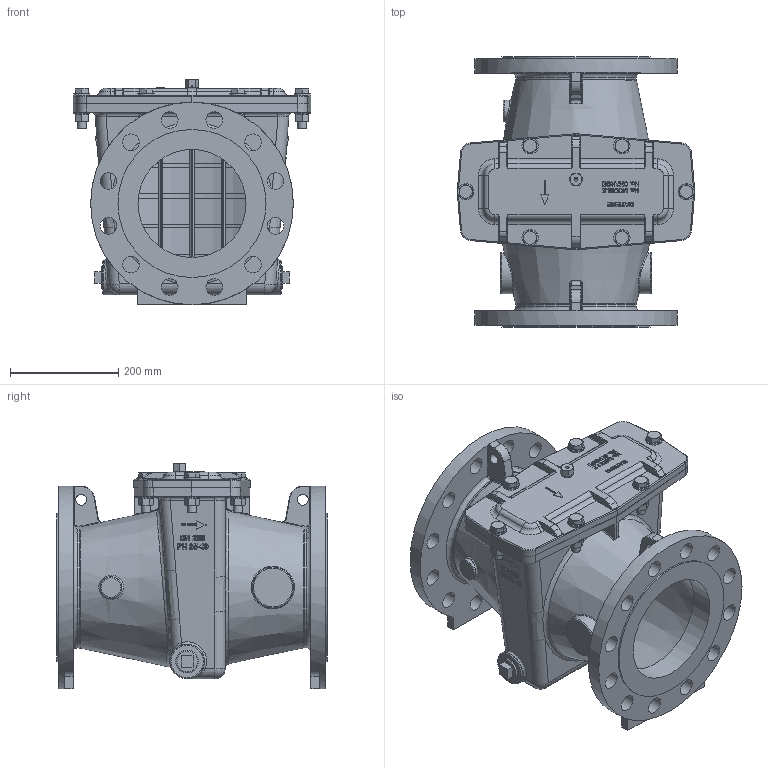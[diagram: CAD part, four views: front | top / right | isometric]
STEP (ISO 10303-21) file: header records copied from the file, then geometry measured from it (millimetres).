
FILE_DESCRIPTION(/* description */ (''),/* implementation_level */ '2;1');
FILE_NAME(/* name */ 'G:\Doc_Liberes\SymbolesCAD\Modeles_3D\FichierSTP\Aqua\Aqua90501\FAB200_40.stp',/* time_stamp */ '2017-11-27T09:29:16+01:00',/* author */ ('Cédric'),/* organization */ (''),/* preprocessor_version */ 'ST-DEVELOPER v16.13',/* originating_system */ 'Autodesk Inventor 2018',/* authorisation */ '');
FILE_SCHEMA (('AUTOMOTIVE_DESIGN { 1 0 10303 214 3 1 1 }'));
Products named in the file (15): FAB20040; 57975; BGT7001; 57976; 57576-02; 57576-07; 57507; 57977; 57978-01; 57978renf; 57978tami; ARP; ISO 4014 - M16 x 65; ISO 4032 - M16; ISO 7089 - 16 - 140 HV
Assembly tree (36 placements, depth 3):
  FAB20040
    57975
    BGT7001  x2
    57976
    57576-02
      57576-07
      57507
    57977
    57978-01
      57978renf
      57978tami
    ARP
    ISO 4014 - M16 x 65  x6
    ISO 7089 - 16 - 140 HV  x12
    ISO 4032 - M16  x6
Bounding box: 440.07 x 500 x 417.5 mm (x, y, z)
Volume: 12811680.7 mm3; surface area: 2161056 mm2
Topology: 34 solids, 34 shells, 1907 faces, 4931 edges, 3134 vertices
Faces by surface type: plane 1019, cylinder 362, bspline 322, torus 105, cone 91, sphere 8
Full cylindrical faces by diameter (mm): 1.6 x1, 2.3 x1, 6.5 x1, 6.92 x1, 7 x4, 8 x1, 13.835 x6, 14 x1, 16 x6, 17 x12, 18 x12, 18.63 x1, 20 x2, 20.955 x1, 22.49 x6, 30 x12, 31 x24, 32 x2, 37.13 x2, 40 x1, 42 x2, 64 x1, 76 x2, 200 x2, 274 x2, 375 x2
Entity records: 58112 total; most frequent: CARTESIAN_POINT 17311, ORIENTED_EDGE 8662, DIRECTION 7488, EDGE_CURVE 4331, VERTEX_POINT 2822, LINE 2712, VECTOR 2712, AXIS2_PLACEMENT_3D 2388
